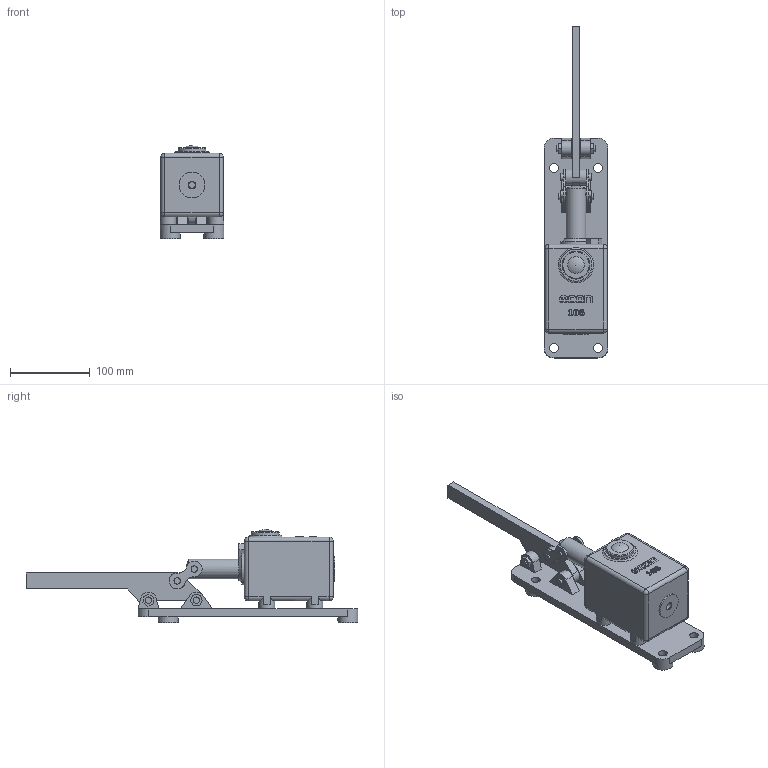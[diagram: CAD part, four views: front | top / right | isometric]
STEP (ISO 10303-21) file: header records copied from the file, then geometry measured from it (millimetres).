
FILE_DESCRIPTION(/* description */ (''),/* implementation_level */ '2;1');
FILE_NAME(/* name */ '106.stp',/* time_stamp */ '2024-11-12T12:39:50+01:00',/* author */ ('roger.thijssen'),/* organization */ (''),/* preprocessor_version */ 'ST-DEVELOPER v19.2',/* originating_system */ 'Autodesk Inventor 2024',/* authorisation */ '');
FILE_SCHEMA (('AUTOMOTIVE_DESIGN { 1 0 10303 214 3 1 1 }'));
Length unit declared in the file: millimetre
Products named in the file (1): 106
Bounding box: 80 x 415.04 x 116.5 mm (x, y, z)
Volume: 1065567.9 mm3; surface area: 132186.6 mm2
Topology: 1 solids, 1 shells, 274 faces, 695 edges, 443 vertices
Faces by surface type: plane 148, cylinder 78, bspline 34, sphere 9, cone 4, torus 1
Full cylindrical faces by diameter (mm): 8 x12, 8.566 x1, 11 x4, 14 x2, 20 x5, 25 x5, 32 x1, 35 x1, 40 x1
Entity records: 8985 total; most frequent: CARTESIAN_POINT 2128, ORIENTED_EDGE 1372, DIRECTION 1272, EDGE_CURVE 686, VERTEX_POINT 443, AXIS2_PLACEMENT_3D 425, LINE 422, VECTOR 422
